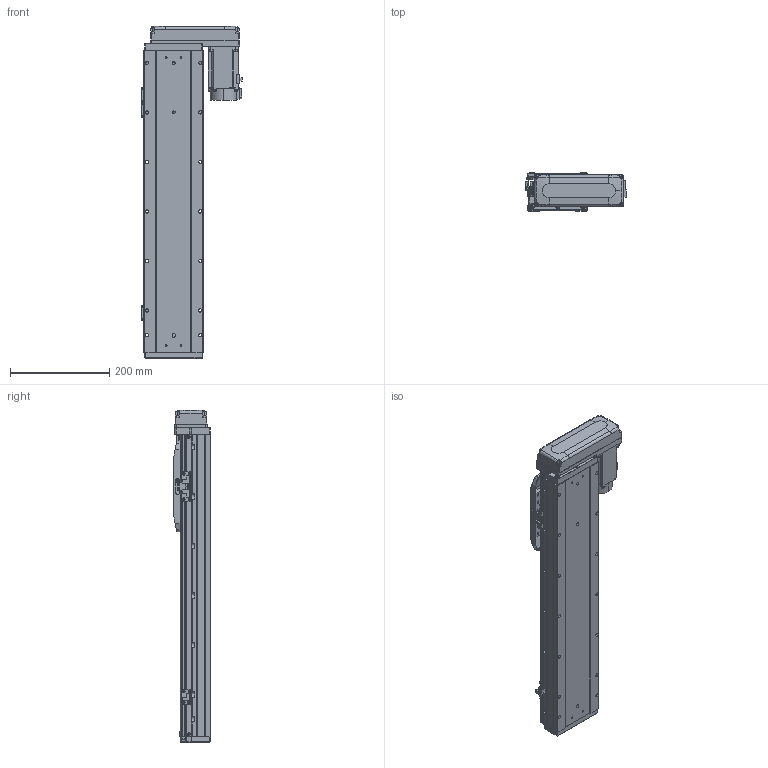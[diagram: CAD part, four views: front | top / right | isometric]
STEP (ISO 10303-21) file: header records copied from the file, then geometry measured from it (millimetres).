
FILE_DESCRIPTION (( 'STEP AP203' ), '1' );
FILE_NAME ('GTH12-400-BL-M40-C4.step', '2025-07-16T03:41:14', ( '' ), ( '' ), 'SwSTEP 2.0', 'SolidWorks 2023', '' );
FILE_SCHEMA (( 'CONFIG_CONTROL_DESIGN' ));
Length unit declared in the file: millimetre
Products named in the file (17): GTH120-027-1_GTH120-027-2; 感应器总成左; GTH120-004; GTH80-022; CTHA86-033_M40B; GBT 70.1-M3×6; GTH120-013; 感应器总成右; GBT 70.3-M3×8; GTH80-028; hg-kn43j_-s100_; GTH120-003; BTH-M3X5X6; GTH12-400-BL-M40-C4; GTH120-001_400; GBT 70.1-M5×16; GTH120-006
Assembly tree (38 placements, depth 2):
  GTH12-400-BL-M40-C4
    GTH120-001_400
    GTH120-003
    GTH120-006
    GTH120-004
    GTH120-013
    GBT 70.1-M3×6  x2
    GBT 70.1-M5×16  x10
    GBT 70.3-M3×8  x4
    GTH80-022
    GTH80-028  x2
    BTH-M3X5X6  x8
    hg-kn43j_-s100_
    CTHA86-033_M40B
    GTH120-027-1_GTH120-027-2
    感应器总成右  x2
    感应器总成左
Bounding box: 203.5 x 76 x 670.5 mm (x, y, z)
Volume: 5223147.4 mm3; surface area: 530386.1 mm2
Topology: 55 solids, 55 shells, 2359 faces, 5528 edges, 3405 vertices
Faces by surface type: plane 1212, cylinder 675, cone 296, torus 162, sphere 8, bspline 6
Entity records: 51350 total; most frequent: CARTESIAN_POINT 8790, DIRECTION 8679, ORIENTED_EDGE 8048, EDGE_CURVE 4024, AXIS2_PLACEMENT_3D 3027, VECTOR 2625, LINE 2625, VERTEX_POINT 2538
